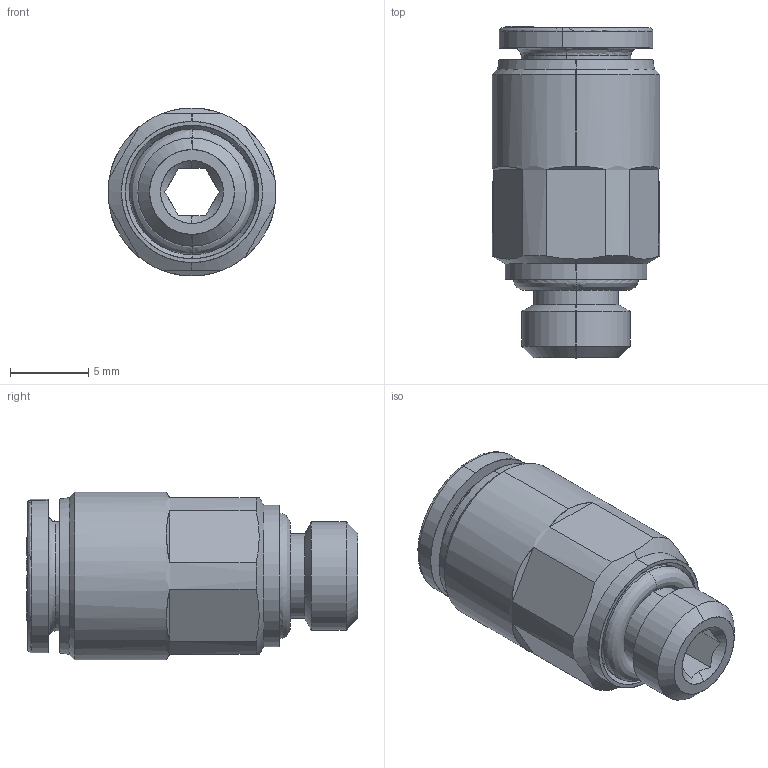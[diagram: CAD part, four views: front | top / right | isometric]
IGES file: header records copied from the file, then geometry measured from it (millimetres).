
Start section: SolidWorks IGES file using analytic representation for surfaces
Global section: file name: C:\Users\cad06\Desktop\Nuova cartella\56020\5602000010.IGS; native system: SolidWorks 2016; preprocessor: SolidWorks 2016; author: cad06; date: 160524.085334; units: millimetre
Bounding box: 10.7 x 21.15 x 10.7 mm (x, y, z)
Surface area: 1209.7 mm2 (no closed solid volume)
Topology: 0 solids, 0 shells, 228 faces, 2068 edges, 2068 vertices
Faces by surface type: bspline 196, revolution 32
